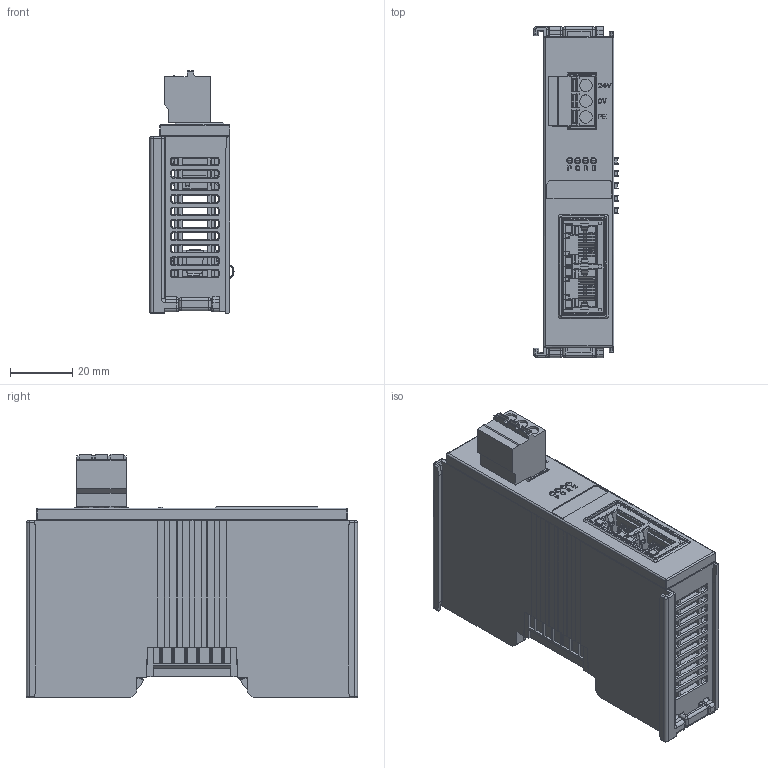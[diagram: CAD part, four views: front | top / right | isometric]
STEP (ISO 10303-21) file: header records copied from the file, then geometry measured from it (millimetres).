
FILE_DESCRIPTION((''),'2;1');
FILE_NAME('PRO_XB6S_DC_2_SW0001','2026-03-25T14:29:50',('Administrator'),(''),'CREO PARAMETRIC BY PTC INC, 2022073','CREO PARAMETRIC BY PTC INC, 2022073','');
FILE_SCHEMA(('CONFIG_CONTROL_DESIGN'));
Products named in the file (1): PRO_XB6S_DC_2_SW0001
Bounding box: 27.05 x 106.4 x 78.4 mm (x, y, z)
Volume: 57488 mm3; surface area: 81436.1 mm2
Topology: 3 solids, 3 shells, 8795 faces, 26008 edges, 16836 vertices
Faces by surface type: plane 6248, cylinder 1997, bspline 329, torus 89, cone 66, sphere 50, extrusion 16
Entity records: 312230 total; most frequent: CARTESIAN_POINT 79246, ORIENTED_EDGE 51940, DIRECTION 43984, EDGE_CURVE 25970, VECTOR 20590, LINE 20574, VERTEX_POINT 16836, AXIS2_PLACEMENT_3D 11697
